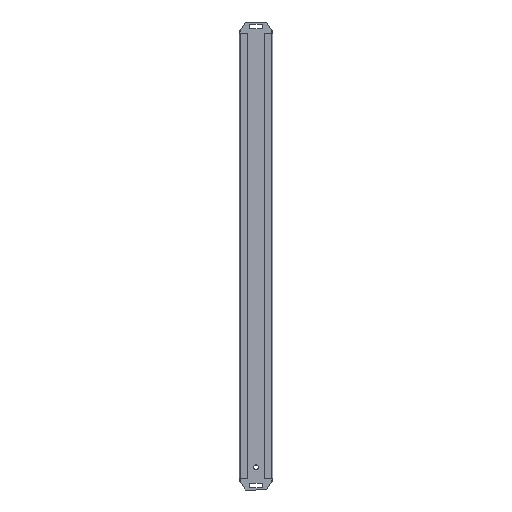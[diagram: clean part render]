
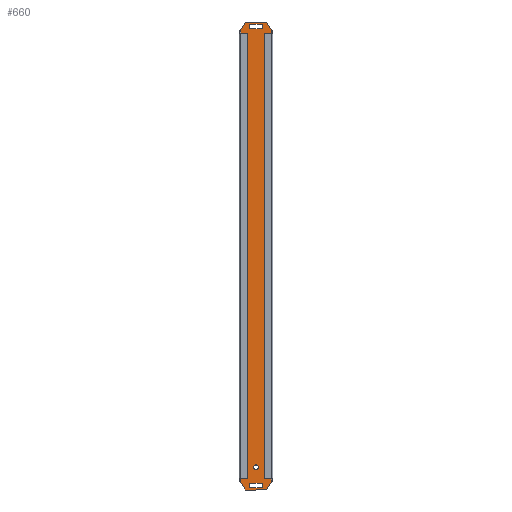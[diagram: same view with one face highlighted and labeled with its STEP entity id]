
A CAD part, front view. The second image highlights one B-rep face of the part: STEP entity #660.
In plain terms, the highlighted planar face has unit normal (0, -1, 0).
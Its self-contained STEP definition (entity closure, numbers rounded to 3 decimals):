
#3 = CARTESIAN_POINT ( 'NONE',  ( 17.95, -1.2, 301. ) ) ;
#5 = EDGE_CURVE ( 'NONE', #1423, #818, #439, .T. ) ;
#11 = VERTEX_POINT ( 'NONE', #1096 ) ;
#25 = LINE ( 'NONE', #748, #245 ) ;
#69 = CARTESIAN_POINT ( 'NONE',  ( 6.45, -1.2, -301. ) ) ;
#72 = VERTEX_POINT ( 'NONE', #1466 ) ;
#79 = LINE ( 'NONE', #1549, #830 ) ;
#83 = EDGE_CURVE ( 'NONE', #1146, #1505, #1268, .T. ) ;
#105 = ORIENTED_EDGE ( 'NONE', *, *, #174, .T. ) ;
#119 = LINE ( 'NONE', #1381, #1159 ) ;
#127 = DIRECTION ( 'NONE',  ( -0.507, 0., -0.862 ) ) ;
#137 = DIRECTION ( 'NONE',  ( 0., 1., 0. ) ) ;
#159 = PLANE ( 'NONE',  #1494 ) ;
#174 = EDGE_CURVE ( 'NONE', #11, #444, #25, .T. ) ;
#176 = DIRECTION ( 'NONE',  ( 0., 0., 1. ) ) ;
#181 = CARTESIAN_POINT ( 'NONE',  ( 26.145, -1.2, 310.25 ) ) ;
#183 = FACE_OUTER_BOUND ( 'NONE', #386, .T. ) ;
#187 = CARTESIAN_POINT ( 'NONE',  ( 6.45, -1.2, -307.5 ) ) ;
#188 = VERTEX_POINT ( 'NONE', #250 ) ;
#202 = EDGE_CURVE ( 'NONE', #935, #1543, #223, .T. ) ;
#211 = VERTEX_POINT ( 'NONE', #683 ) ;
#223 = LINE ( 'NONE', #187, #357 ) ;
#231 = AXIS2_PLACEMENT_3D ( 'NONE', #904, #787, #409 ) ;
#238 = VECTOR ( 'NONE', #746, 1000. ) ;
#240 = VECTOR ( 'NONE', #701, 1000. ) ;
#245 = VECTOR ( 'NONE', #127, 1000. ) ;
#250 = CARTESIAN_POINT ( 'NONE',  ( -7.9, -1.2, -299.781 ) ) ;
#257 = CARTESIAN_POINT ( 'NONE',  ( -7.9, -1.2, 299.781 ) ) ;
#258 = EDGE_CURVE ( 'NONE', #1232, #620, #1417, .T. ) ;
#266 = VECTOR ( 'NONE', #863, 1000. ) ;
#267 = DIRECTION ( 'NONE',  ( 1., 0., 0. ) ) ;
#286 = DIRECTION ( 'NONE',  ( 0., -1., 0. ) ) ;
#290 = ORIENTED_EDGE ( 'NONE', *, *, #1287, .T. ) ;
#298 = EDGE_CURVE ( 'NONE', #11, #818, #1028, .T. ) ;
#341 = FACE_BOUND ( 'NONE', #814, .T. ) ;
#357 = VECTOR ( 'NONE', #816, 1000. ) ;
#358 = DIRECTION ( 'NONE',  ( 0.507, 0., 0.862 ) ) ;
#364 = CARTESIAN_POINT ( 'NONE',  ( -7.9, -1.2, 310.25 ) ) ;
#379 = LINE ( 'NONE', #1343, #240 ) ;
#386 = EDGE_LOOP ( 'NONE', ( #878, #105, #477, #290, #1285, #1273, #1503, #1183 ) ) ;
#393 = CARTESIAN_POINT ( 'NONE',  ( 6.45, -1.2, 307.5 ) ) ;
#409 = DIRECTION ( 'NONE',  ( 0., 0., 1. ) ) ;
#414 = CARTESIAN_POINT ( 'NONE',  ( 0., -1.2, 0. ) ) ;
#421 = CARTESIAN_POINT ( 'NONE',  ( 6.45, -1.2, -304.25 ) ) ;
#439 = LINE ( 'NONE', #1204, #1572 ) ;
#440 = VERTEX_POINT ( 'NONE', #762 ) ;
#444 = VERTEX_POINT ( 'NONE', #257 ) ;
#445 = EDGE_CURVE ( 'NONE', #1169, #211, #1554, .T. ) ;
#477 = ORIENTED_EDGE ( 'NONE', *, *, #1147, .F. ) ;
#545 = DIRECTION ( 'NONE',  ( 0., 1., 0. ) ) ;
#562 = EDGE_CURVE ( 'NONE', #1543, #741, #1608, .T. ) ;
#568 = CARTESIAN_POINT ( 'NONE',  ( 26.145, -1.2, -310.25 ) ) ;
#572 = LINE ( 'NONE', #1109, #1175 ) ;
#590 = CARTESIAN_POINT ( 'NONE',  ( 17.95, -1.2, -307.5 ) ) ;
#595 = FACE_BOUND ( 'NONE', #697, .T. ) ;
#613 = EDGE_CURVE ( 'NONE', #1032, #72, #968, .T. ) ;
#620 = VERTEX_POINT ( 'NONE', #1530 ) ;
#621 = CARTESIAN_POINT ( 'NONE',  ( 6.45, -1.2, 301. ) ) ;
#629 = CARTESIAN_POINT ( 'NONE',  ( 6.45, -1.2, 304.25 ) ) ;
#635 = LINE ( 'NONE', #393, #1282 ) ;
#640 = DIRECTION ( 'NONE',  ( 0., 1., 0. ) ) ;
#649 = EDGE_CURVE ( 'NONE', #1227, #935, #672, .T. ) ;
#660 = ADVANCED_FACE ( 'NONE', ( #341, #930, #595, #183 ), #159, .T. ) ;
#664 = ORIENTED_EDGE ( 'NONE', *, *, #613, .F. ) ;
#672 = CIRCLE ( 'NONE', #231, 3.25 ) ;
#683 = CARTESIAN_POINT ( 'NONE',  ( 6.45, -1.2, 307.5 ) ) ;
#697 = EDGE_LOOP ( 'NONE', ( #990, #699, #1088, #1047 ) ) ;
#699 = ORIENTED_EDGE ( 'NONE', *, *, #1115, .T. ) ;
#701 = DIRECTION ( 'NONE',  ( 0.507, 0., -0.862 ) ) ;
#702 = DIRECTION ( 'NONE',  ( -1., 0., 0. ) ) ;
#707 = AXIS2_PLACEMENT_3D ( 'NONE', #760, #640, #1259 ) ;
#737 = DIRECTION ( 'NONE',  ( 0., 0., -1. ) ) ;
#741 = VERTEX_POINT ( 'NONE', #69 ) ;
#746 = DIRECTION ( 'NONE',  ( -1., 0., 0. ) ) ;
#748 = CARTESIAN_POINT ( 'NONE',  ( -7.9, -1.2, 299.781 ) ) ;
#750 = CARTESIAN_POINT ( 'NONE',  ( 32.3, -1.2, 299.781 ) ) ;
#756 = ORIENTED_EDGE ( 'NONE', *, *, #1125, .T. ) ;
#760 = CARTESIAN_POINT ( 'NONE',  ( 17.95, -1.2, 304.25 ) ) ;
#762 = CARTESIAN_POINT ( 'NONE',  ( 32.3, -1.2, -299.781 ) ) ;
#784 = ORIENTED_EDGE ( 'NONE', *, *, #445, .T. ) ;
#787 = DIRECTION ( 'NONE',  ( 0., 1., 0. ) ) ;
#813 = AXIS2_PLACEMENT_3D ( 'NONE', #421, #545, #1156 ) ;
#814 = EDGE_LOOP ( 'NONE', ( #1420, #664 ) ) ;
#816 = DIRECTION ( 'NONE',  ( -1., 0., 0. ) ) ;
#818 = VERTEX_POINT ( 'NONE', #181 ) ;
#826 = EDGE_CURVE ( 'NONE', #72, #1032, #831, .T. ) ;
#830 = VECTOR ( 'NONE', #924, 1000. ) ;
#831 = CIRCLE ( 'NONE', #1541, 3.25 ) ;
#845 = CARTESIAN_POINT ( 'NONE',  ( -7.9, -1.2, -310.25 ) ) ;
#863 = DIRECTION ( 'NONE',  ( 1., 0., 0. ) ) ;
#878 = ORIENTED_EDGE ( 'NONE', *, *, #298, .F. ) ;
#887 = LINE ( 'NONE', #621, #238 ) ;
#890 = CARTESIAN_POINT ( 'NONE',  ( 17.95, -1.2, 307.5 ) ) ;
#898 = DIRECTION ( 'NONE',  ( 0., 0., 1. ) ) ;
#904 = CARTESIAN_POINT ( 'NONE',  ( 17.95, -1.2, -304.25 ) ) ;
#907 = LINE ( 'NONE', #1270, #942 ) ;
#913 = EDGE_LOOP ( 'NONE', ( #784, #756, #950, #932 ) ) ;
#924 = DIRECTION ( 'NONE',  ( 1., 0., 0. ) ) ;
#930 = FACE_BOUND ( 'NONE', #913, .T. ) ;
#932 = ORIENTED_EDGE ( 'NONE', *, *, #1518, .T. ) ;
#935 = VERTEX_POINT ( 'NONE', #590 ) ;
#942 = VECTOR ( 'NONE', #176, 1000. ) ;
#947 = DIRECTION ( 'NONE',  ( -0.507, 0., 0.862 ) ) ;
#950 = ORIENTED_EDGE ( 'NONE', *, *, #83, .T. ) ;
#968 = CIRCLE ( 'NONE', #1316, 3.25 ) ;
#990 = ORIENTED_EDGE ( 'NONE', *, *, #562, .T. ) ;
#1028 = LINE ( 'NONE', #364, #266 ) ;
#1032 = VERTEX_POINT ( 'NONE', #1600 ) ;
#1047 = ORIENTED_EDGE ( 'NONE', *, *, #202, .T. ) ;
#1088 = ORIENTED_EDGE ( 'NONE', *, *, #649, .T. ) ;
#1096 = CARTESIAN_POINT ( 'NONE',  ( -1.745, -1.2, 310.25 ) ) ;
#1109 = CARTESIAN_POINT ( 'NONE',  ( 32.3, -1.2, -299.781 ) ) ;
#1115 = EDGE_CURVE ( 'NONE', #741, #1227, #79, .T. ) ;
#1125 = EDGE_CURVE ( 'NONE', #211, #1146, #635, .T. ) ;
#1146 = VERTEX_POINT ( 'NONE', #890 ) ;
#1147 = EDGE_CURVE ( 'NONE', #188, #444, #907, .T. ) ;
#1156 = DIRECTION ( 'NONE',  ( 0., 0., 1. ) ) ;
#1159 = VECTOR ( 'NONE', #737, 1000. ) ;
#1167 = CARTESIAN_POINT ( 'NONE',  ( 12.2, -1.2, -280.25 ) ) ;
#1169 = VERTEX_POINT ( 'NONE', #1566 ) ;
#1175 = VECTOR ( 'NONE', #358, 1000. ) ;
#1179 = CARTESIAN_POINT ( 'NONE',  ( 17.95, -1.2, -301. ) ) ;
#1183 = ORIENTED_EDGE ( 'NONE', *, *, #5, .T. ) ;
#1204 = CARTESIAN_POINT ( 'NONE',  ( 32.3, -1.2, 299.781 ) ) ;
#1227 = VERTEX_POINT ( 'NONE', #1179 ) ;
#1229 = CARTESIAN_POINT ( 'NONE',  ( 12.2, -1.2, -280.25 ) ) ;
#1232 = VERTEX_POINT ( 'NONE', #568 ) ;
#1259 = DIRECTION ( 'NONE',  ( 0., 0., 1. ) ) ;
#1268 = CIRCLE ( 'NONE', #707, 3.25 ) ;
#1270 = CARTESIAN_POINT ( 'NONE',  ( -7.9, -1.2, -299.781 ) ) ;
#1273 = ORIENTED_EDGE ( 'NONE', *, *, #1513, .T. ) ;
#1276 = CARTESIAN_POINT ( 'NONE',  ( 6.45, -1.2, -307.5 ) ) ;
#1281 = DIRECTION ( 'NONE',  ( 0., 0., -1. ) ) ;
#1282 = VECTOR ( 'NONE', #267, 1000. ) ;
#1285 = ORIENTED_EDGE ( 'NONE', *, *, #258, .F. ) ;
#1287 = EDGE_CURVE ( 'NONE', #188, #620, #379, .T. ) ;
#1316 = AXIS2_PLACEMENT_3D ( 'NONE', #1167, #1412, #1281 ) ;
#1343 = CARTESIAN_POINT ( 'NONE',  ( -7.9, -1.2, -299.781 ) ) ;
#1346 = DIRECTION ( 'NONE',  ( 0., -1., 0. ) ) ;
#1381 = CARTESIAN_POINT ( 'NONE',  ( 32.3, -1.2, 299.781 ) ) ;
#1407 = AXIS2_PLACEMENT_3D ( 'NONE', #629, #137, #898 ) ;
#1412 = DIRECTION ( 'NONE',  ( 0., -1., 0. ) ) ;
#1417 = LINE ( 'NONE', #845, #1472 ) ;
#1418 = DIRECTION ( 'NONE',  ( 0., 0., -1. ) ) ;
#1420 = ORIENTED_EDGE ( 'NONE', *, *, #826, .F. ) ;
#1423 = VERTEX_POINT ( 'NONE', #750 ) ;
#1444 = DIRECTION ( 'NONE',  ( 0., 0., -1. ) ) ;
#1466 = CARTESIAN_POINT ( 'NONE',  ( 12.2, -1.2, -277. ) ) ;
#1472 = VECTOR ( 'NONE', #702, 1000. ) ;
#1480 = EDGE_CURVE ( 'NONE', #1423, #440, #119, .T. ) ;
#1494 = AXIS2_PLACEMENT_3D ( 'NONE', #414, #286, #1418 ) ;
#1503 = ORIENTED_EDGE ( 'NONE', *, *, #1480, .F. ) ;
#1505 = VERTEX_POINT ( 'NONE', #3 ) ;
#1513 = EDGE_CURVE ( 'NONE', #1232, #440, #572, .T. ) ;
#1518 = EDGE_CURVE ( 'NONE', #1505, #1169, #887, .T. ) ;
#1530 = CARTESIAN_POINT ( 'NONE',  ( -1.745, -1.2, -310.25 ) ) ;
#1541 = AXIS2_PLACEMENT_3D ( 'NONE', #1229, #1346, #1444 ) ;
#1543 = VERTEX_POINT ( 'NONE', #1276 ) ;
#1549 = CARTESIAN_POINT ( 'NONE',  ( 6.45, -1.2, -301. ) ) ;
#1554 = CIRCLE ( 'NONE', #1407, 3.25 ) ;
#1566 = CARTESIAN_POINT ( 'NONE',  ( 6.45, -1.2, 301. ) ) ;
#1572 = VECTOR ( 'NONE', #947, 1000. ) ;
#1600 = CARTESIAN_POINT ( 'NONE',  ( 12.2, -1.2, -283.5 ) ) ;
#1608 = CIRCLE ( 'NONE', #813, 3.25 ) ;
